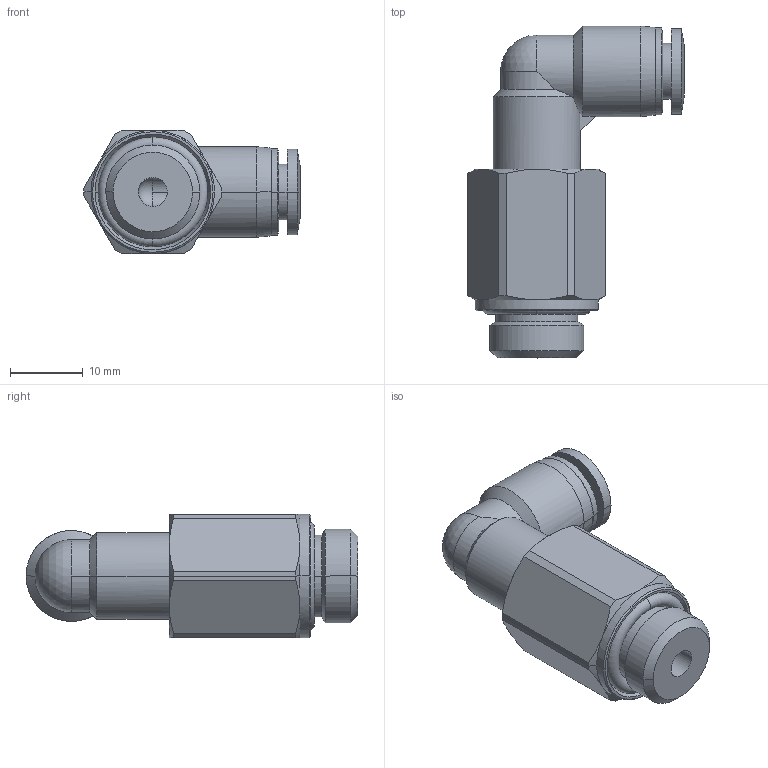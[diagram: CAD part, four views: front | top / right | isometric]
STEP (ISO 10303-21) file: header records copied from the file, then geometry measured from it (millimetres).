
FILE_DESCRIPTION (( 'STEP AP203' ), '1' );
FILE_NAME ('FLL06-02.STEP', '2020-05-13T11:09:05', ( '' ), ( '' ), 'SwSTEP 2.0', 'SolidWorks 2019', '' );
FILE_SCHEMA (( 'CONFIG_CONTROL_DESIGN' ));
Length unit declared in the file: millimetre
Products named in the file (1): FLL06-02
Bounding box: 29.8 x 45.75 x 17 mm (x, y, z)
Surface area: 4366.5 mm2 (no closed solid volume)
Topology: 0 solids, 4 shells, 93 faces, 223 edges, 138 vertices
Faces by surface type: cylinder 34, cone 32, plane 19, torus 4, bspline 2, sphere 2
Entity records: 4475 total; most frequent: CARTESIAN_POINT 2630, ORIENTED_EDGE 424, DIRECTION 236, EDGE_CURVE 220, B_SPLINE_CURVE_WITH_KNOTS 166, VERTEX_POINT 137, EDGE_LOOP 103, AXIS2_PLACEMENT_3D 96
